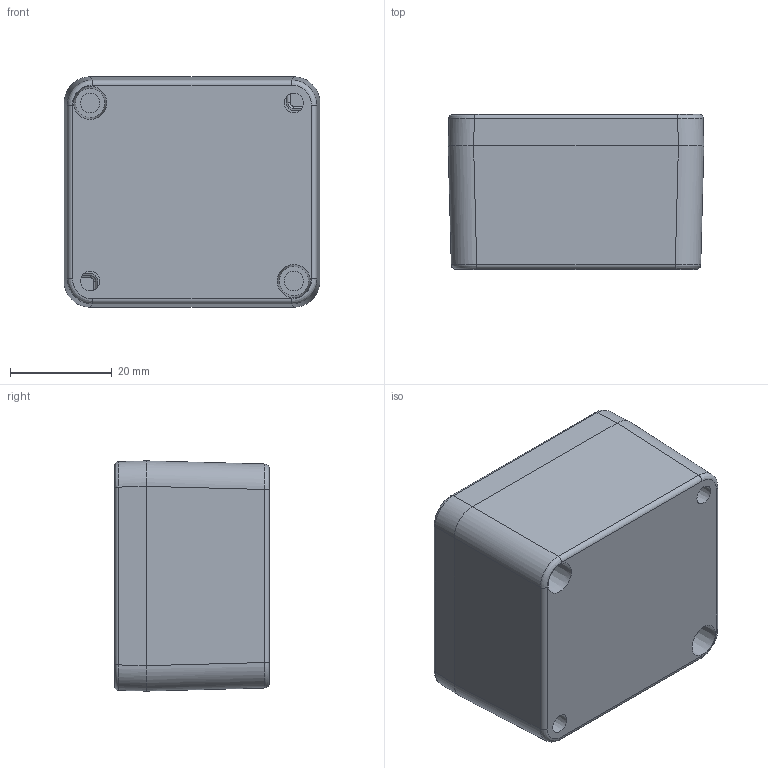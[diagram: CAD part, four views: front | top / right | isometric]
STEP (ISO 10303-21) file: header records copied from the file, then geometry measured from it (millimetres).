
FILE_DESCRIPTION(/* description */ (''),/* implementation_level */ '2;1');
FILE_NAME(/* name */ 'E:\Eng\Customer Service\Drawings\1590Z\STEP\1590Z060\1590Z060.iam.stp',/* time_stamp */ '2015-04-20T08:45:59-04:00',/* author */ ('lwalsh'),/* organization */ (''),/* preprocessor_version */ 'ST-DEVELOPER v15.6',/* originating_system */ 'Autodesk Inventor 2015',/* authorisation */ '');
FILE_SCHEMA (('AUTOMOTIVE_DESIGN { 1 0 10303 214 3 1 1 }'));
Products named in the file (5): 1550Z101 BOX; 1550Z101 LID; 1550Z101 GASKET; (screw M4-0.7X 20mm FH); 1590Z060
Assembly tree (5 placements, depth 2):
  1590Z060
    1550Z101 BOX
    1550Z101 LID
    1550Z101 GASKET
    (screw M4-0.7X 20mm FH)  x2
Bounding box: 50.2 x 30.4 x 45.2 mm (x, y, z)
Volume: 25503.9 mm3; surface area: 23007.9 mm2
Topology: 5 solids, 5 shells, 1164 faces, 2936 edges, 1842 vertices
Faces by surface type: bspline 370, plane 361, cylinder 174, torus 138, cone 121
Full cylindrical faces by diameter (mm): 3.42 x2, 3.82 x2
Entity records: 51518 total; most frequent: CARTESIAN_POINT 26350, ORIENTED_EDGE 5644, DIRECTION 4370, EDGE_CURVE 2822, VERTEX_POINT 1786, AXIS2_PLACEMENT_3D 1495, LINE 1380, VECTOR 1380
